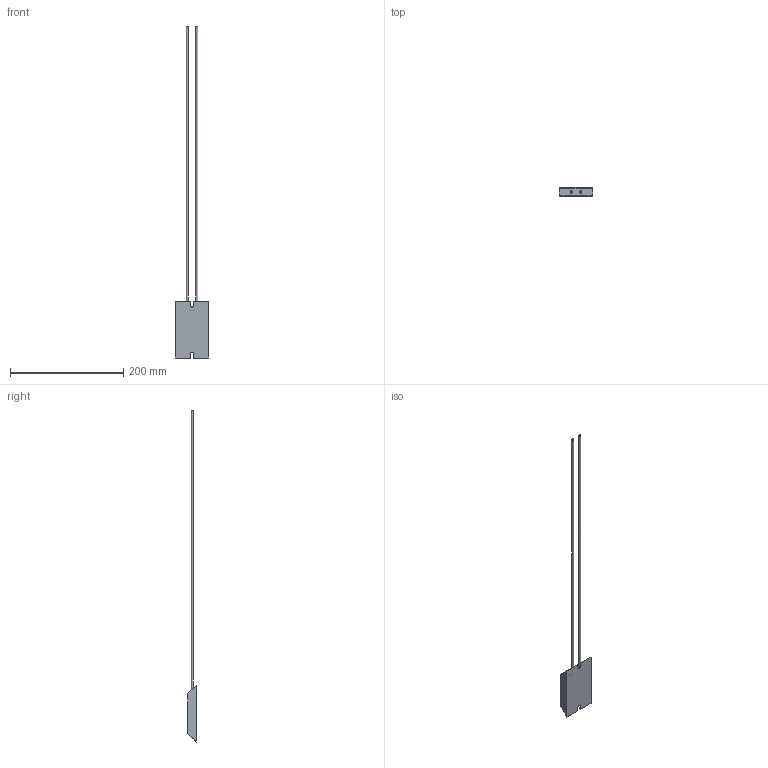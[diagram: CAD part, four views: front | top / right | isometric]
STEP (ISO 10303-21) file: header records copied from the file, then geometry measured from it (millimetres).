
FILE_DESCRIPTION(/* description */ (''),/* implementation_level */ '2;1');
FILE_NAME(/* name */ 'C:\_Vault\Dati\CATALOGO\RFD\RFDV100.stp',/* time_stamp */ '2014-03-24T18:30:30+01:00',/* author */ ('stefano'),/* organization */ (''),/* preprocessor_version */ 'ST-DEVELOPER v15.2',/* originating_system */ 'Autodesk Inventor 2014',/* authorisation */ '');
FILE_SCHEMA (('AUTOMOTIVE_DESIGN { 1 0 10303 214 3 1 1 }'));
Length unit declared in the file: millimetre
Products named in the file (1): RFDV100
Bounding box: 60 x 15 x 586.6 mm (x, y, z)
Volume: 80712 mm3; surface area: 28799.6 mm2
Topology: 1 solids, 1 shells, 28 faces, 66 edges, 44 vertices
Faces by surface type: plane 22, cylinder 6
Full cylindrical faces by diameter (mm): 2 x2, 4 x2
Entity records: 866 total; most frequent: CARTESIAN_POINT 135, DIRECTION 132, ORIENTED_EDGE 124, EDGE_CURVE 62, LINE 50, VECTOR 50, VERTEX_POINT 44, AXIS2_PLACEMENT_3D 41
